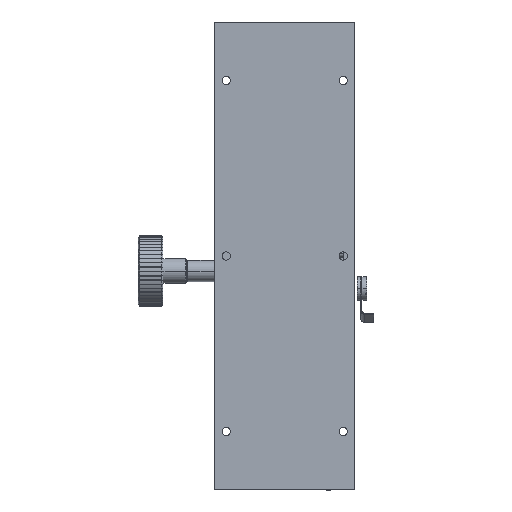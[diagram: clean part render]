
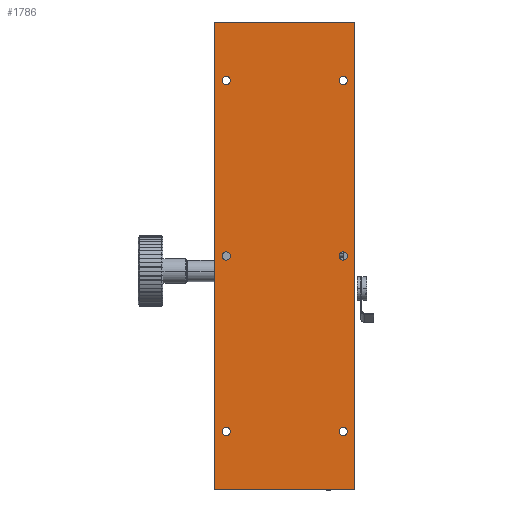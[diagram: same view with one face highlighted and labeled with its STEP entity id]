
A CAD part, front view. The second image highlights one B-rep face of the part: STEP entity #1786.
In plain terms, the highlighted planar face has unit normal (0, 1, 0).
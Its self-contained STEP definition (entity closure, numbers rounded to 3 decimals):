
#10 = EDGE_CURVE ( 'NONE', #3572, #11422, #8890, .T. ) ;
#48 = CIRCLE ( 'NONE', #9446, 1.75 ) ;
#55 = ORIENTED_EDGE ( 'NONE', *, *, #1990, .T. ) ;
#75 = DIRECTION ( 'NONE',  ( 0., 0., 1. ) ) ;
#106 = CARTESIAN_POINT ( 'NONE',  ( -24.901, -4.258, 198.25 ) ) ;
#476 = DIRECTION ( 'NONE',  ( 0., -1., 0. ) ) ;
#919 = EDGE_CURVE ( 'NONE', #8236, #4111, #48, .T. ) ;
#924 = DIRECTION ( 'NONE',  ( -1., 0., 0. ) ) ;
#992 = FACE_BOUND ( 'NONE', #1365, .T. ) ;
#1093 = EDGE_LOOP ( 'NONE', ( #8811, #11387 ) ) ;
#1122 = CARTESIAN_POINT ( 'NONE',  ( 30.099, -4.258, 300. ) ) ;
#1213 = CIRCLE ( 'NONE', #9241, 1.75 ) ;
#1277 = CARTESIAN_POINT ( 'NONE',  ( 30.099, -4.258, 300. ) ) ;
#1323 = CARTESIAN_POINT ( 'NONE',  ( 25.099, -4.258, 125. ) ) ;
#1360 = DIRECTION ( 'NONE',  ( 0., 0., 1. ) ) ;
#1365 = EDGE_LOOP ( 'NONE', ( #8200, #2839 ) ) ;
#1407 = FACE_BOUND ( 'NONE', #2460, .T. ) ;
#1493 = CARTESIAN_POINT ( 'NONE',  ( 25.099, -4.258, 200. ) ) ;
#1586 = VERTEX_POINT ( 'NONE', #5169 ) ;
#1608 = DIRECTION ( 'NONE',  ( 0., -1., 0. ) ) ;
#1609 = DIRECTION ( 'NONE',  ( 0., -1., 0. ) ) ;
#1652 = CARTESIAN_POINT ( 'NONE',  ( -29.901, -4.258, 300. ) ) ;
#1751 = LINE ( 'NONE', #1277, #7540 ) ;
#1784 = DIRECTION ( 'NONE',  ( 0., -1., 0. ) ) ;
#1786 = ADVANCED_FACE ( 'NONE', ( #3768, #1407, #9818, #9283, #992, #5838, #3920 ), #3455, .T. ) ;
#1824 = CARTESIAN_POINT ( 'NONE',  ( 25.099, -4.258, 275. ) ) ;
#1842 = DIRECTION ( 'NONE',  ( -1., 0., 0. ) ) ;
#1876 = ORIENTED_EDGE ( 'NONE', *, *, #10, .T. ) ;
#1908 = ORIENTED_EDGE ( 'NONE', *, *, #7515, .T. ) ;
#1990 = EDGE_CURVE ( 'NONE', #9524, #4749, #5014, .T. ) ;
#2106 = VERTEX_POINT ( 'NONE', #9119 ) ;
#2108 = CIRCLE ( 'NONE', #7183, 1.75 ) ;
#2273 = LINE ( 'NONE', #5636, #9822 ) ;
#2310 = VERTEX_POINT ( 'NONE', #5411 ) ;
#2354 = EDGE_LOOP ( 'NONE', ( #7913, #5394 ) ) ;
#2361 = CARTESIAN_POINT ( 'NONE',  ( -24.901, -4.258, 125. ) ) ;
#2460 = EDGE_LOOP ( 'NONE', ( #8636, #1876 ) ) ;
#2574 = CIRCLE ( 'NONE', #7304, 1.75 ) ;
#2754 = CARTESIAN_POINT ( 'NONE',  ( 25.099, -4.258, 198.25 ) ) ;
#2805 = CARTESIAN_POINT ( 'NONE',  ( 25.099, -4.258, 200. ) ) ;
#2839 = ORIENTED_EDGE ( 'NONE', *, *, #4494, .T. ) ;
#2905 = CARTESIAN_POINT ( 'NONE',  ( -24.901, -4.258, 126.75 ) ) ;
#2933 = ORIENTED_EDGE ( 'NONE', *, *, #4558, .T. ) ;
#2960 = LINE ( 'NONE', #1652, #4050 ) ;
#2982 = EDGE_CURVE ( 'NONE', #9698, #2106, #1213, .T. ) ;
#3196 = VERTEX_POINT ( 'NONE', #7021 ) ;
#3233 = CIRCLE ( 'NONE', #10468, 1.75 ) ;
#3246 = VERTEX_POINT ( 'NONE', #10092 ) ;
#3455 = PLANE ( 'NONE',  #6199 ) ;
#3489 = EDGE_LOOP ( 'NONE', ( #4615, #55 ) ) ;
#3500 = CIRCLE ( 'NONE', #11108, 1.75 ) ;
#3556 = DIRECTION ( 'NONE',  ( 0., 0., 1. ) ) ;
#3572 = VERTEX_POINT ( 'NONE', #7723 ) ;
#3650 = DIRECTION ( 'NONE',  ( 0., 0., 1. ) ) ;
#3683 = ORIENTED_EDGE ( 'NONE', *, *, #7126, .T. ) ;
#3768 = FACE_BOUND ( 'NONE', #2354, .T. ) ;
#3900 = ORIENTED_EDGE ( 'NONE', *, *, #10230, .T. ) ;
#3920 = FACE_OUTER_BOUND ( 'NONE', #5792, .T. ) ;
#4022 = EDGE_CURVE ( 'NONE', #1586, #2310, #6049, .T. ) ;
#4038 = DIRECTION ( 'NONE',  ( 0., 0., -1. ) ) ;
#4050 = VECTOR ( 'NONE', #6081, 1000. ) ;
#4060 = DIRECTION ( 'NONE',  ( 0., 0., 1. ) ) ;
#4111 = VERTEX_POINT ( 'NONE', #106 ) ;
#4126 = CARTESIAN_POINT ( 'NONE',  ( -24.901, -4.258, 201.75 ) ) ;
#4131 = CIRCLE ( 'NONE', #5251, 1.75 ) ;
#4254 = VERTEX_POINT ( 'NONE', #7827 ) ;
#4258 = CARTESIAN_POINT ( 'NONE',  ( -29.901, -4.258, 300. ) ) ;
#4279 = VECTOR ( 'NONE', #924, 1000. ) ;
#4494 = EDGE_CURVE ( 'NONE', #4111, #8236, #4131, .T. ) ;
#4558 = EDGE_CURVE ( 'NONE', #11421, #1586, #1751, .T. ) ;
#4615 = ORIENTED_EDGE ( 'NONE', *, *, #10832, .T. ) ;
#4749 = VERTEX_POINT ( 'NONE', #6922 ) ;
#5014 = CIRCLE ( 'NONE', #8561, 1.75 ) ;
#5169 = CARTESIAN_POINT ( 'NONE',  ( 30.099, -4.258, 100. ) ) ;
#5229 = CARTESIAN_POINT ( 'NONE',  ( 25.099, -4.258, 275. ) ) ;
#5251 = AXIS2_PLACEMENT_3D ( 'NONE', #10094, #10135, #7487 ) ;
#5276 = EDGE_CURVE ( 'NONE', #3246, #3196, #6272, .T. ) ;
#5394 = ORIENTED_EDGE ( 'NONE', *, *, #9727, .T. ) ;
#5405 = CARTESIAN_POINT ( 'NONE',  ( -24.901, -4.258, 200. ) ) ;
#5411 = CARTESIAN_POINT ( 'NONE',  ( -29.901, -4.258, 100. ) ) ;
#5451 = CARTESIAN_POINT ( 'NONE',  ( -24.901, -4.258, 275. ) ) ;
#5457 = CIRCLE ( 'NONE', #6755, 1.75 ) ;
#5636 = CARTESIAN_POINT ( 'NONE',  ( -29.901, -4.258, 300. ) ) ;
#5780 = DIRECTION ( 'NONE',  ( 0., -1., 0. ) ) ;
#5792 = EDGE_LOOP ( 'NONE', ( #3683, #3900, #2933, #10880 ) ) ;
#5838 = FACE_BOUND ( 'NONE', #5921, .T. ) ;
#5921 = EDGE_LOOP ( 'NONE', ( #11142, #1908 ) ) ;
#6044 = DIRECTION ( 'NONE',  ( 0., 0., 1. ) ) ;
#6049 = LINE ( 'NONE', #10702, #4279 ) ;
#6081 = DIRECTION ( 'NONE',  ( 0., 0., 1. ) ) ;
#6188 = DIRECTION ( 'NONE',  ( 0., -1., 0. ) ) ;
#6191 = DIRECTION ( 'NONE',  ( 0., 1., 0. ) ) ;
#6199 = AXIS2_PLACEMENT_3D ( 'NONE', #4258, #6191, #1842 ) ;
#6272 = CIRCLE ( 'NONE', #11088, 1.75 ) ;
#6313 = DIRECTION ( 'NONE',  ( 0., -1., 0. ) ) ;
#6755 = AXIS2_PLACEMENT_3D ( 'NONE', #10659, #6313, #9777 ) ;
#6922 = CARTESIAN_POINT ( 'NONE',  ( 25.099, -4.258, 201.75 ) ) ;
#7021 = CARTESIAN_POINT ( 'NONE',  ( -24.901, -4.258, 276.75 ) ) ;
#7039 = VERTEX_POINT ( 'NONE', #9365 ) ;
#7126 = EDGE_CURVE ( 'NONE', #2310, #8476, #2960, .T. ) ;
#7183 = AXIS2_PLACEMENT_3D ( 'NONE', #5451, #6188, #8027 ) ;
#7304 = AXIS2_PLACEMENT_3D ( 'NONE', #1323, #476, #1360 ) ;
#7342 = AXIS2_PLACEMENT_3D ( 'NONE', #2361, #1609, #11122 ) ;
#7453 = CARTESIAN_POINT ( 'NONE',  ( 25.099, -4.258, 276.75 ) ) ;
#7458 = DIRECTION ( 'NONE',  ( 0., -1., 0. ) ) ;
#7487 = DIRECTION ( 'NONE',  ( 0., 0., 1. ) ) ;
#7515 = EDGE_CURVE ( 'NONE', #2106, #9698, #3500, .T. ) ;
#7540 = VECTOR ( 'NONE', #4038, 1000. ) ;
#7691 = EDGE_CURVE ( 'NONE', #3196, #3246, #2108, .T. ) ;
#7723 = CARTESIAN_POINT ( 'NONE',  ( -24.901, -4.258, 123.25 ) ) ;
#7827 = CARTESIAN_POINT ( 'NONE',  ( 25.099, -4.258, 126.75 ) ) ;
#7913 = ORIENTED_EDGE ( 'NONE', *, *, #9033, .T. ) ;
#7971 = DIRECTION ( 'NONE',  ( 0., 0., 1. ) ) ;
#8027 = DIRECTION ( 'NONE',  ( 0., 0., 1. ) ) ;
#8056 = DIRECTION ( 'NONE',  ( 0., -1., 0. ) ) ;
#8200 = ORIENTED_EDGE ( 'NONE', *, *, #919, .T. ) ;
#8236 = VERTEX_POINT ( 'NONE', #4126 ) ;
#8476 = VERTEX_POINT ( 'NONE', #8794 ) ;
#8561 = AXIS2_PLACEMENT_3D ( 'NONE', #1493, #5780, #4060 ) ;
#8636 = ORIENTED_EDGE ( 'NONE', *, *, #9337, .T. ) ;
#8794 = CARTESIAN_POINT ( 'NONE',  ( -29.901, -4.258, 300. ) ) ;
#8811 = ORIENTED_EDGE ( 'NONE', *, *, #7691, .T. ) ;
#8889 = CIRCLE ( 'NONE', #7342, 1.75 ) ;
#8890 = CIRCLE ( 'NONE', #9803, 1.75 ) ;
#8900 = DIRECTION ( 'NONE',  ( 0., -1., 0. ) ) ;
#8937 = DIRECTION ( 'NONE',  ( 0., -1., 0. ) ) ;
#9033 = EDGE_CURVE ( 'NONE', #4254, #7039, #5457, .T. ) ;
#9119 = CARTESIAN_POINT ( 'NONE',  ( 25.099, -4.258, 273.25 ) ) ;
#9241 = AXIS2_PLACEMENT_3D ( 'NONE', #1824, #8937, #3650 ) ;
#9283 = FACE_BOUND ( 'NONE', #3489, .T. ) ;
#9337 = EDGE_CURVE ( 'NONE', #11422, #3572, #8889, .T. ) ;
#9352 = DIRECTION ( 'NONE',  ( 0., 0., 1. ) ) ;
#9365 = CARTESIAN_POINT ( 'NONE',  ( 25.099, -4.258, 123.25 ) ) ;
#9388 = CARTESIAN_POINT ( 'NONE',  ( -24.901, -4.258, 125. ) ) ;
#9446 = AXIS2_PLACEMENT_3D ( 'NONE', #5405, #1784, #75 ) ;
#9524 = VERTEX_POINT ( 'NONE', #2754 ) ;
#9698 = VERTEX_POINT ( 'NONE', #7453 ) ;
#9727 = EDGE_CURVE ( 'NONE', #7039, #4254, #2574, .T. ) ;
#9777 = DIRECTION ( 'NONE',  ( 0., 0., 1. ) ) ;
#9803 = AXIS2_PLACEMENT_3D ( 'NONE', #9388, #7458, #9352 ) ;
#9818 = FACE_BOUND ( 'NONE', #1093, .T. ) ;
#9822 = VECTOR ( 'NONE', #10235, 1000. ) ;
#9823 = CARTESIAN_POINT ( 'NONE',  ( -24.901, -4.258, 275. ) ) ;
#10092 = CARTESIAN_POINT ( 'NONE',  ( -24.901, -4.258, 273.25 ) ) ;
#10094 = CARTESIAN_POINT ( 'NONE',  ( -24.901, -4.258, 200. ) ) ;
#10135 = DIRECTION ( 'NONE',  ( 0., -1., 0. ) ) ;
#10230 = EDGE_CURVE ( 'NONE', #8476, #11421, #2273, .T. ) ;
#10235 = DIRECTION ( 'NONE',  ( 1., 0., 0. ) ) ;
#10468 = AXIS2_PLACEMENT_3D ( 'NONE', #2805, #8900, #7971 ) ;
#10659 = CARTESIAN_POINT ( 'NONE',  ( 25.099, -4.258, 125. ) ) ;
#10702 = CARTESIAN_POINT ( 'NONE',  ( -29.901, -4.258, 100. ) ) ;
#10832 = EDGE_CURVE ( 'NONE', #4749, #9524, #3233, .T. ) ;
#10880 = ORIENTED_EDGE ( 'NONE', *, *, #4022, .T. ) ;
#11088 = AXIS2_PLACEMENT_3D ( 'NONE', #9823, #8056, #3556 ) ;
#11108 = AXIS2_PLACEMENT_3D ( 'NONE', #5229, #1608, #6044 ) ;
#11122 = DIRECTION ( 'NONE',  ( 0., 0., 1. ) ) ;
#11142 = ORIENTED_EDGE ( 'NONE', *, *, #2982, .T. ) ;
#11387 = ORIENTED_EDGE ( 'NONE', *, *, #5276, .T. ) ;
#11421 = VERTEX_POINT ( 'NONE', #1122 ) ;
#11422 = VERTEX_POINT ( 'NONE', #2905 ) ;
